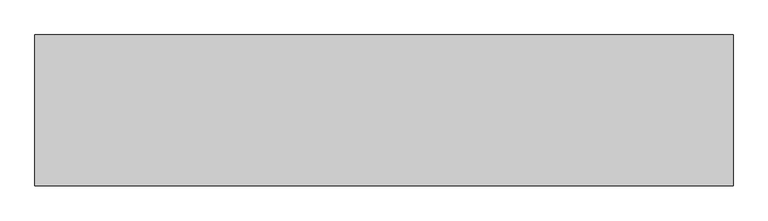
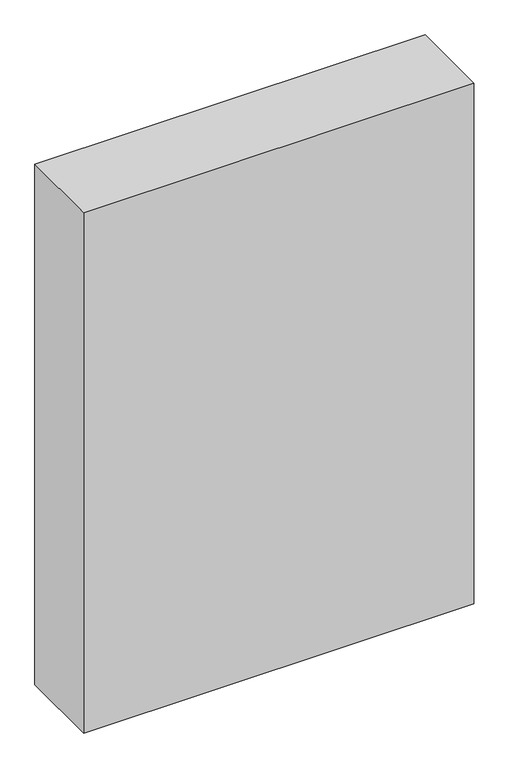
"""IFC4 building model written with IfcOpenShell, lengths in millimetres: proxy geometry."""

from ifc_helpers import new_model, si_unit, origin, origin_with_axes, place, context, project, spatial, polyline, outline, extrude, source, transform, mapped, element, save


def generic_models_43188b8e(model_context):
    return source(origin(), model_context, "Body", "SweptSolid", [
        extrude(outline(polyline([(-106443.1304765, -19300.7903364), (-106443.1304765, -19780.7903364), (-108663.1304765, -19780.7903364), (-108663.1304765, -19300.7903364), (-106443.1304765, -19300.7903364)])), origin_with_axes(), (0.0, 0.0, 1.0), 3130.0),
    ])


if __name__ == "__main__":
    model = new_model("IFC4")
    model_context = context("Model", 3, world=origin())
    ifc_project = project(units=[si_unit("LENGTHUNIT", "METRE", prefix="MILLI")], contexts=[model_context])
    site = spatial("IfcSite", under=ifc_project)
    building = spatial("IfcBuilding", under=site)
    placement = place(None, origin())
    generic_models_shape = generic_models_43188b8e(model_context)
    element("IfcBuildingElementProxy", 1, Name="Generic Models", at=placement, inside=building, context=model_context, shape_type="MappedRepresentation", body=[
        mapped(generic_models_shape, transform((0.0, 0.0, 0.0), x_axis=(1.0, 0.0, 0.0), y_axis=(0.0, 1.0, 0.0), z_axis=(0.0, 0.0, 1.0))),
    ])
    save(model, "model.ifc")
